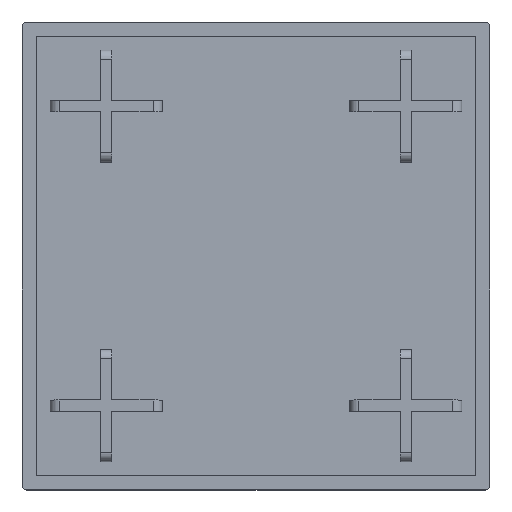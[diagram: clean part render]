
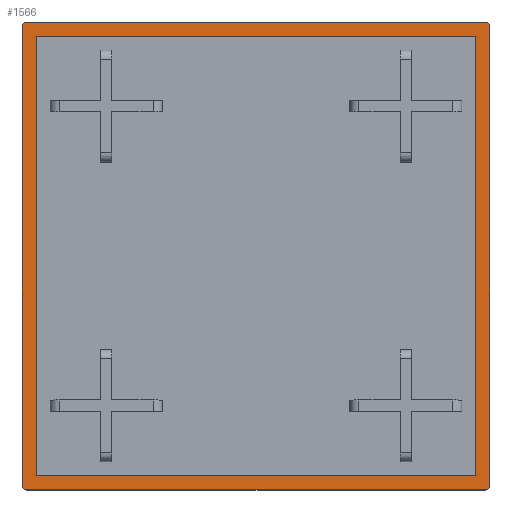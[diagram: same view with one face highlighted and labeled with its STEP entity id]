
A CAD part, top view. The second image highlights one B-rep face of the part: STEP entity #1566.
In plain terms, the highlighted planar face has unit normal (0, 0, 1).
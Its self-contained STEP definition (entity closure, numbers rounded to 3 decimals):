
#13=FACE_BOUND($,#206,.T.);
#14=FACE_BOUND($,#207,.T.);
#44=PLANE($,#1686);
#206=EDGE_LOOP($,(#1264,#1265,#1266,#1267));
#207=EDGE_LOOP($,(#1268,#1269,#1270,#1271,#1272,#1273,#1274,#1275));
#370=LINE($,#2482,#558);
#371=LINE($,#2484,#559);
#372=LINE($,#2486,#560);
#373=LINE($,#2487,#561);
#374=LINE($,#2489,#562);
#375=LINE($,#2493,#563);
#376=LINE($,#2497,#564);
#377=LINE($,#2500,#565);
#558=VECTOR($,#2007,47.);
#559=VECTOR($,#2008,47.);
#560=VECTOR($,#2009,47.);
#561=VECTOR($,#2010,47.);
#562=VECTOR($,#2011,49.);
#563=VECTOR($,#2014,49.);
#564=VECTOR($,#2017,49.);
#565=VECTOR($,#2020,49.);
#660=CIRCLE($,#1684,0.5);
#662=CIRCLE($,#1687,0.5);
#663=CIRCLE($,#1688,0.5);
#664=CIRCLE($,#1689,0.5);
#779=VERTEX_POINT($,#2471);
#780=VERTEX_POINT($,#2472);
#783=VERTEX_POINT($,#2480);
#784=VERTEX_POINT($,#2481);
#785=VERTEX_POINT($,#2483);
#786=VERTEX_POINT($,#2485);
#787=VERTEX_POINT($,#2488);
#788=VERTEX_POINT($,#2490);
#789=VERTEX_POINT($,#2492);
#790=VERTEX_POINT($,#2494);
#791=VERTEX_POINT($,#2496);
#792=VERTEX_POINT($,#2498);
#968=EDGE_CURVE($,#779,#780,#660,.T.);
#972=EDGE_CURVE($,#783,#784,#370,.T.);
#973=EDGE_CURVE($,#784,#785,#371,.T.);
#974=EDGE_CURVE($,#785,#786,#372,.T.);
#975=EDGE_CURVE($,#786,#783,#373,.T.);
#976=EDGE_CURVE($,#779,#787,#374,.T.);
#977=EDGE_CURVE($,#788,#787,#662,.T.);
#978=EDGE_CURVE($,#788,#789,#375,.T.);
#979=EDGE_CURVE($,#790,#789,#663,.T.);
#980=EDGE_CURVE($,#790,#791,#376,.T.);
#981=EDGE_CURVE($,#792,#791,#664,.T.);
#982=EDGE_CURVE($,#792,#780,#377,.T.);
#1264=ORIENTED_EDGE($,*,*,#972,.T.);
#1265=ORIENTED_EDGE($,*,*,#973,.T.);
#1266=ORIENTED_EDGE($,*,*,#974,.T.);
#1267=ORIENTED_EDGE($,*,*,#975,.T.);
#1268=ORIENTED_EDGE($,*,*,#968,.F.);
#1269=ORIENTED_EDGE($,*,*,#976,.T.);
#1270=ORIENTED_EDGE($,*,*,#977,.F.);
#1271=ORIENTED_EDGE($,*,*,#978,.T.);
#1272=ORIENTED_EDGE($,*,*,#979,.F.);
#1273=ORIENTED_EDGE($,*,*,#980,.T.);
#1274=ORIENTED_EDGE($,*,*,#981,.F.);
#1275=ORIENTED_EDGE($,*,*,#982,.T.);
#1566=ADVANCED_FACE($,(#13,#14),#44,.T.);
#1684=AXIS2_PLACEMENT_3D($,#2473,#1999,#2000);
#1686=AXIS2_PLACEMENT_3D($,#2479,#2005,#2006);
#1687=AXIS2_PLACEMENT_3D($,#2491,#2012,#2013);
#1688=AXIS2_PLACEMENT_3D($,#2495,#2015,#2016);
#1689=AXIS2_PLACEMENT_3D($,#2499,#2018,#2019);
#1999=DIRECTION('center_axis',(0.,0.,-1.));
#2000=DIRECTION('ref_axis',(0.707,-0.707,0.));
#2005=DIRECTION('center_axis',(0.,0.,1.));
#2006=DIRECTION('ref_axis',(1.,0.,0.));
#2007=DIRECTION($,(0.,-1.,0.));
#2008=DIRECTION($,(-1.,0.,0.));
#2009=DIRECTION($,(0.,1.,0.));
#2010=DIRECTION($,(1.,0.,0.));
#2011=DIRECTION($,(0.,1.,0.));
#2012=DIRECTION('center_axis',(0.,0.,-1.));
#2013=DIRECTION('ref_axis',(0.707,0.707,0.));
#2014=DIRECTION($,(-1.,0.,0.));
#2015=DIRECTION('center_axis',(0.,0.,-1.));
#2016=DIRECTION('ref_axis',(-0.707,0.707,0.));
#2017=DIRECTION($,(0.,-1.,0.));
#2018=DIRECTION('center_axis',(0.,0.,-1.));
#2019=DIRECTION('ref_axis',(-0.707,-0.707,0.));
#2020=DIRECTION($,(1.,0.,0.));
#2471=CARTESIAN_POINT('',(50.213,0.693,5.));
#2472=CARTESIAN_POINT('',(49.713,0.193,5.));
#2473=CARTESIAN_POINT('Origin',(49.713,0.693,5.));
#2479=CARTESIAN_POINT('Origin',(25.213,25.193,5.));
#2480=CARTESIAN_POINT('',(48.713,48.693,5.));
#2481=CARTESIAN_POINT('',(48.713,1.693,5.));
#2482=CARTESIAN_POINT($,(48.713,13.443,5.));
#2483=CARTESIAN_POINT('',(1.713,1.693,5.));
#2484=CARTESIAN_POINT($,(13.463,1.693,5.));
#2485=CARTESIAN_POINT('',(1.713,48.693,5.));
#2486=CARTESIAN_POINT($,(1.713,36.943,5.));
#2487=CARTESIAN_POINT($,(36.963,48.693,5.));
#2488=CARTESIAN_POINT('',(50.213,49.693,5.));
#2489=CARTESIAN_POINT($,(50.213,50.193,5.));
#2490=CARTESIAN_POINT('',(49.713,50.193,5.));
#2491=CARTESIAN_POINT('Origin',(49.713,49.693,5.));
#2492=CARTESIAN_POINT('',(0.713,50.193,5.));
#2493=CARTESIAN_POINT($,(0.213,50.193,5.));
#2494=CARTESIAN_POINT('',(0.213,49.693,5.));
#2495=CARTESIAN_POINT('Origin',(0.713,49.693,5.));
#2496=CARTESIAN_POINT('',(0.213,0.693,5.));
#2497=CARTESIAN_POINT($,(0.213,0.193,5.));
#2498=CARTESIAN_POINT('',(0.713,0.193,5.));
#2499=CARTESIAN_POINT('Origin',(0.713,0.693,5.));
#2500=CARTESIAN_POINT($,(50.213,0.193,5.));
